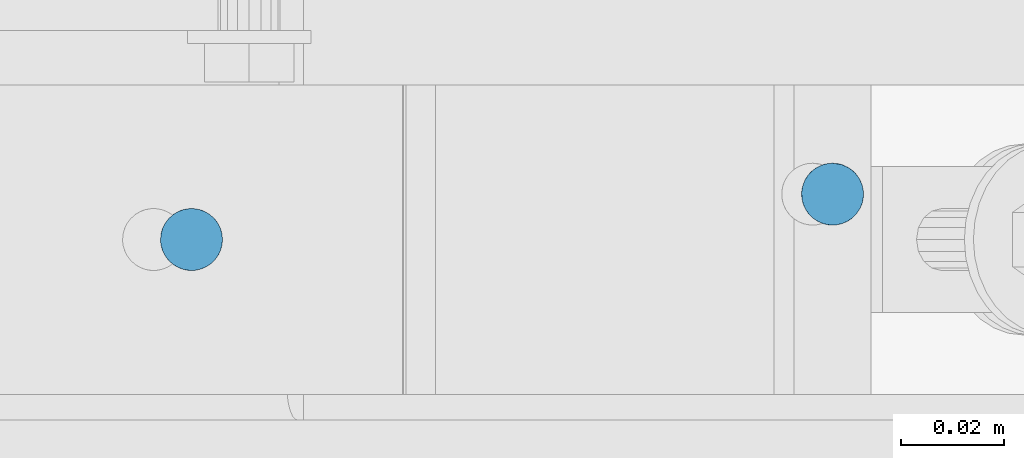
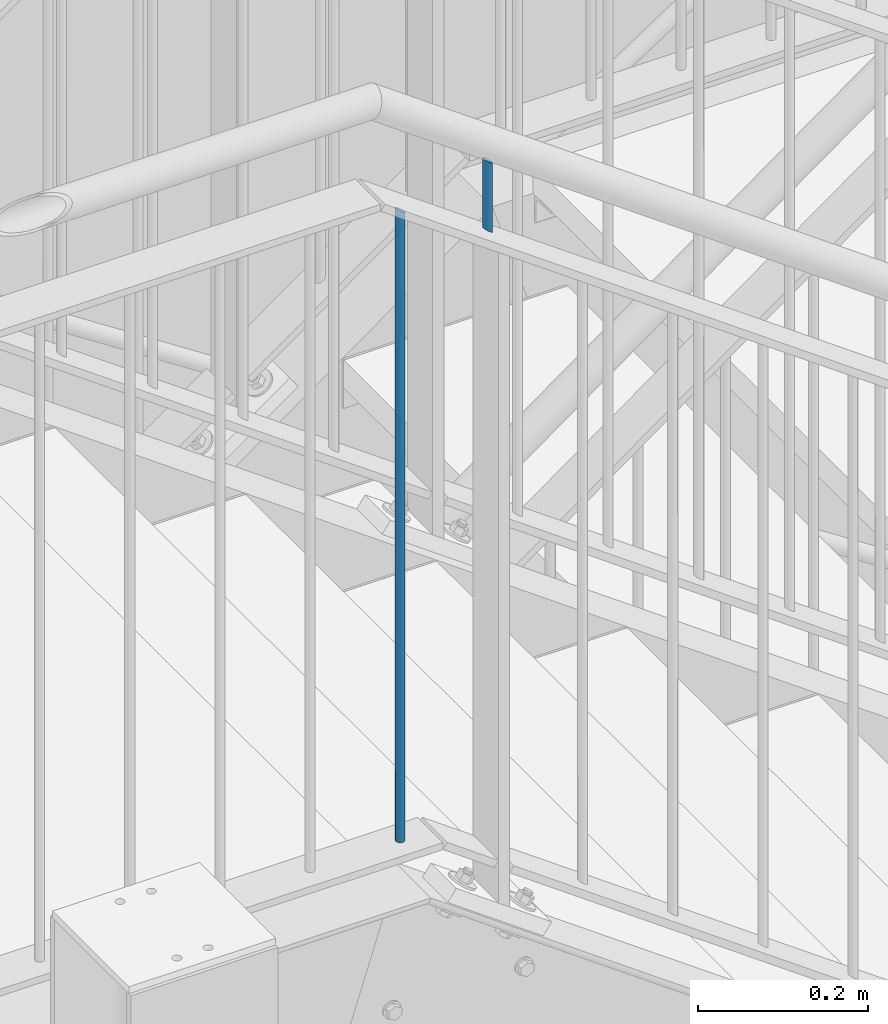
# One storey, part 36 of 821: 2 columns.
"""IFC2X3 building model written with IfcOpenShell, lengths in millimetres."""

from ifc_helpers import new_model, entity, si_unit, converted_unit, frame, origin, origin_with_axes, origin_2d, place, context, project, spatial, circle, extrude, clip, halfspace, material, element, save


model = new_model("IFC2X3")

# Units and contexts
model_context = context("Model", 3, precision=1e-09, world=origin_with_axes())
ifc_project = project(units=[si_unit("LENGTHUNIT", "METRE", prefix="MILLI"), si_unit("AREAUNIT", "SQUARE_METRE"), si_unit("VOLUMEUNIT", "CUBIC_METRE"), converted_unit("PLANEANGLEUNIT", "DEGREE", entity("IfcPlaneAngleMeasure", 0.01745329), si_unit("PLANEANGLEUNIT", "RADIAN"), dimensions=[0, 0, 0, 0, 0, 0, 0])], contexts=[model_context])

# Site, building, storey
site_placement = place(None, origin_with_axes())
site = spatial("IfcSite", under=ifc_project, at=site_placement, Name="Cnopf'sche Kinderklinik", CompositionType="ELEMENT")
building_placement = place(site_placement, origin_with_axes())
building = spatial("IfcBuilding", under=site, at=building_placement, Name="Struktur 1", CompositionType="ELEMENT")
storey_placement = place(building_placement, origin_with_axes())
storey = spatial("IfcBuildingStorey", under=building, at=storey_placement, Name="Default Storey", CompositionType="ELEMENT", Elevation=0.0)

# Columns
ifc_material = material(Name="S235JR")
column_1_placement = place(None, frame((5270.541831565, 4526.736971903, 18821.664040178), z_axis=(0.0, 0.0, 1.0), x_axis=(-1.0, 0.0, 0.0)))
element("IfcColumn", 1, at=column_1_placement, inside=storey, material=ifc_material, Name="Railing_Picket_Landing#76", ObjectType="Railing_Picket_Landing#76", context=model_context, shape_type="Clipping", body=[
    clip(extrude(circle(Radius=6.0, at=origin_2d()), origin(), (0.0, 0.0, -1.0), 917.664040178), halfspace(frame((-5447.258518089, 4526.736971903, -3931.284925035), z_axis=(0.584187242, 0.0, -0.811618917), x_axis=(0.0, 1.0, 0.0)), True)),
])
column_2_placement = place(None, frame((5394.791831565, 4535.536971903, 18844.552401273), z_axis=(0.0, 0.0, 1.0), x_axis=(0.0, 1.0, 0.0)))
element("IfcColumn", 2, at=column_2_placement, inside=storey, material=ifc_material, Name="Bar#11", ObjectType="Bar#11", context=model_context, shape_type="Clipping", body=[
    clip(clip(extrude(circle(Radius=6.0, at=origin_2d()), origin(), (0.0, 0.0, -1.0), 120.909520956), halfspace(frame((-4535.536971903, -5376.26413218, -3880.184570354), z_axis=(0.0, 0.584187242, -0.811618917), x_axis=(-1.0, 0.0, 0.0)), True)), halfspace(frame((-4535.536971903, -5328.851558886, -3946.055473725), z_axis=(0.0, -0.584187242, 0.811618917), x_axis=(1.0, 0.0, 0.0)), True)),
])

save(model, "model.ifc")
